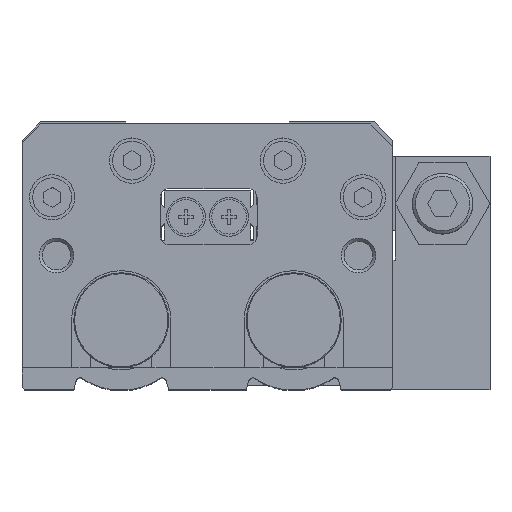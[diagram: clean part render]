
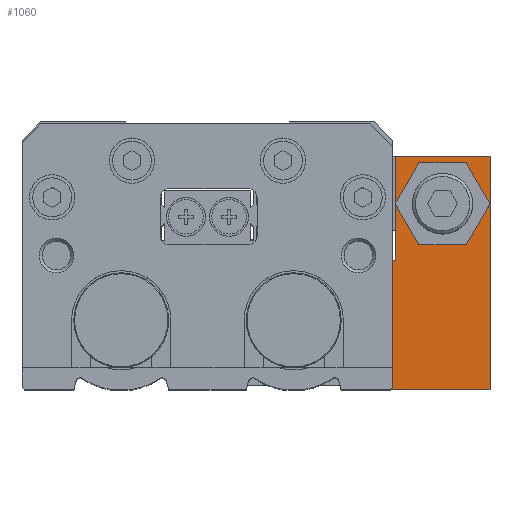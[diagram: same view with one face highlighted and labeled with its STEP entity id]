
A CAD part, top view. The second image highlights one B-rep face of the part: STEP entity #1060.
In plain terms, the highlighted planar face has unit normal (0, 0, 1) as drawn and (0, 0, -1) by its records, which use the part's own axes.
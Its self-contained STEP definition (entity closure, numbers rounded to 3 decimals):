
#1060 = ADVANCED_FACE( '', ( #2566, #2567 ), #2568, .F. );
#2566 = FACE_BOUND( '', #4687, .T. );
#2567 = FACE_OUTER_BOUND( '', #4688, .T. );
#2568 = PLANE( '', #4689 );
#4687 = EDGE_LOOP( '', ( #7549, #7550, #7551, #7552, #7553, #7554 ) );
#4688 = EDGE_LOOP( '', ( #7555, #7556, #7557, #7558, #7559, #7560 ) );
#4689 = AXIS2_PLACEMENT_3D( '', #7561, #7562, #7563 );
#7549 = ORIENTED_EDGE( '', *, *, #12075, .T. );
#7550 = ORIENTED_EDGE( '', *, *, #12188, .T. );
#7551 = ORIENTED_EDGE( '', *, *, #12189, .T. );
#7552 = ORIENTED_EDGE( '', *, *, #12190, .T. );
#7553 = ORIENTED_EDGE( '', *, *, #12191, .T. );
#7554 = ORIENTED_EDGE( '', *, *, #11762, .T. );
#7555 = ORIENTED_EDGE( '', *, *, #12106, .F. );
#7556 = ORIENTED_EDGE( '', *, *, #12192, .F. );
#7557 = ORIENTED_EDGE( '', *, *, #12144, .F. );
#7558 = ORIENTED_EDGE( '', *, *, #12193, .F. );
#7559 = ORIENTED_EDGE( '', *, *, #12194, .F. );
#7560 = ORIENTED_EDGE( '', *, *, #12195, .F. );
#7561 = CARTESIAN_POINT( '', ( 0., 0., -8. ) );
#7562 = DIRECTION( '', ( 0., 0., 1. ) );
#7563 = DIRECTION( '', ( 1., 0., 0. ) );
#11762 = EDGE_CURVE( '', #13977, #13978, #13979, .T. );
#12075 = EDGE_CURVE( '', #13978, #14503, #14504, .T. );
#12106 = EDGE_CURVE( '', #14553, #14554, #14555, .T. );
#12144 = EDGE_CURVE( '', #14616, #14617, #14618, .T. );
#12188 = EDGE_CURVE( '', #14503, #14683, #14684, .T. );
#12189 = EDGE_CURVE( '', #14683, #14685, #14686, .T. );
#12190 = EDGE_CURVE( '', #14685, #14687, #14688, .T. );
#12191 = EDGE_CURVE( '', #14687, #13977, #14689, .T. );
#12192 = EDGE_CURVE( '', #14617, #14553, #14690, .T. );
#12193 = EDGE_CURVE( '', #14691, #14616, #14692, .T. );
#12194 = EDGE_CURVE( '', #14693, #14691, #14694, .T. );
#12195 = EDGE_CURVE( '', #14554, #14693, #14695, .T. );
#13977 = VERTEX_POINT( '', #17127 );
#13978 = VERTEX_POINT( '', #17128 );
#13979 = LINE( '', #17129, #17130 );
#14503 = VERTEX_POINT( '', #17842 );
#14504 = LINE( '', #17843, #17844 );
#14553 = VERTEX_POINT( '', #17908 );
#14554 = VERTEX_POINT( '', #17909 );
#14555 = LINE( '', #17910, #17911 );
#14616 = VERTEX_POINT( '', #17997 );
#14617 = VERTEX_POINT( '', #17998 );
#14618 = LINE( '', #17999, #18000 );
#14683 = VERTEX_POINT( '', #18092 );
#14684 = LINE( '', #18093, #18094 );
#14685 = VERTEX_POINT( '', #18095 );
#14686 = LINE( '', #18096, #18097 );
#14687 = VERTEX_POINT( '', #18098 );
#14688 = LINE( '', #18099, #18100 );
#14689 = LINE( '', #18101, #18102 );
#14690 = LINE( '', #18103, #18104 );
#14691 = VERTEX_POINT( '', #18105 );
#14692 = LINE( '', #18106, #18107 );
#14693 = VERTEX_POINT( '', #18108 );
#14694 = LINE( '', #18109, #18110 );
#14695 = LINE( '', #18111, #18112 );
#17127 = CARTESIAN_POINT( '', ( -0.03, 11., -8. ) );
#17128 = CARTESIAN_POINT( '', ( -5.515, 20.5, -8. ) );
#17129 = CARTESIAN_POINT( '', ( -0.03, 11., -8. ) );
#17130 = VECTOR( '', #20738, 1000. );
#17842 = CARTESIAN_POINT( '', ( -16.485, 20.5, -8. ) );
#17843 = CARTESIAN_POINT( '', ( -5.515, 20.5, -8. ) );
#17844 = VECTOR( '', #21089, 1000. );
#17908 = CARTESIAN_POINT( '', ( -24., 54., -8. ) );
#17909 = CARTESIAN_POINT( '', ( -24., 24., -8. ) );
#17910 = CARTESIAN_POINT( '', ( -24., 54., -8. ) );
#17911 = VECTOR( '', #21123, 1000. );
#17997 = CARTESIAN_POINT( '', ( 0., 0., -8. ) );
#17998 = CARTESIAN_POINT( '', ( 0., 54., -8. ) );
#17999 = CARTESIAN_POINT( '', ( 0., 0., -8. ) );
#18000 = VECTOR( '', #21164, 1000. );
#18092 = CARTESIAN_POINT( '', ( -21.97, 11., -8. ) );
#18093 = CARTESIAN_POINT( '', ( -16.485, 20.5, -8. ) );
#18094 = VECTOR( '', #21204, 1000. );
#18095 = CARTESIAN_POINT( '', ( -16.485, 1.5, -8. ) );
#18096 = CARTESIAN_POINT( '', ( -21.97, 11., -8. ) );
#18097 = VECTOR( '', #21205, 1000. );
#18098 = CARTESIAN_POINT( '', ( -5.515, 1.5, -8. ) );
#18099 = CARTESIAN_POINT( '', ( -16.485, 1.5, -8. ) );
#18100 = VECTOR( '', #21206, 1000. );
#18101 = CARTESIAN_POINT( '', ( -5.515, 1.5, -8. ) );
#18102 = VECTOR( '', #21207, 1000. );
#18103 = CARTESIAN_POINT( '', ( 0., 54., -8. ) );
#18104 = VECTOR( '', #21208, 1000. );
#18105 = CARTESIAN_POINT( '', ( -22., 0., -8. ) );
#18106 = CARTESIAN_POINT( '', ( -22., 0., -8. ) );
#18107 = VECTOR( '', #21209, 1000. );
#18108 = CARTESIAN_POINT( '', ( -22., 24., -8. ) );
#18109 = CARTESIAN_POINT( '', ( -22., 24., -8. ) );
#18110 = VECTOR( '', #21210, 1000. );
#18111 = CARTESIAN_POINT( '', ( -24., 24., -8. ) );
#18112 = VECTOR( '', #21211, 1000. );
#20738 = DIRECTION( '', ( -0.5, 0.866, 0. ) );
#21089 = DIRECTION( '', ( -1., 0., 0. ) );
#21123 = DIRECTION( '', ( 0., -1., 0. ) );
#21164 = DIRECTION( '', ( 0., 1., 0. ) );
#21204 = DIRECTION( '', ( -0.5, -0.866, 0. ) );
#21205 = DIRECTION( '', ( 0.5, -0.866, 0. ) );
#21206 = DIRECTION( '', ( 1., 0., 0. ) );
#21207 = DIRECTION( '', ( 0.5, 0.866, 0. ) );
#21208 = DIRECTION( '', ( -1., 0., 0. ) );
#21209 = DIRECTION( '', ( 1., 0., 0. ) );
#21210 = DIRECTION( '', ( 0., -1., 0. ) );
#21211 = DIRECTION( '', ( 1., 0., 0. ) );
